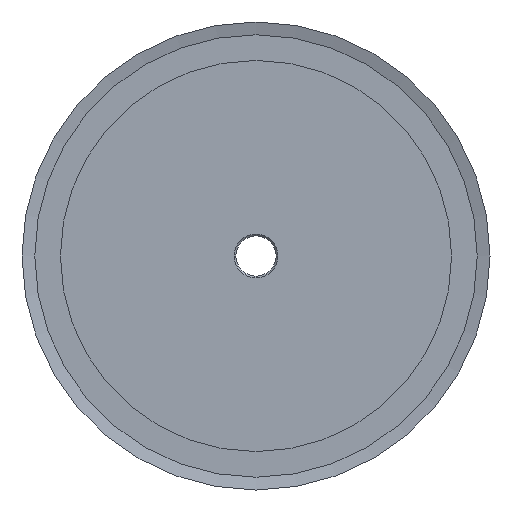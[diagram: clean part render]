
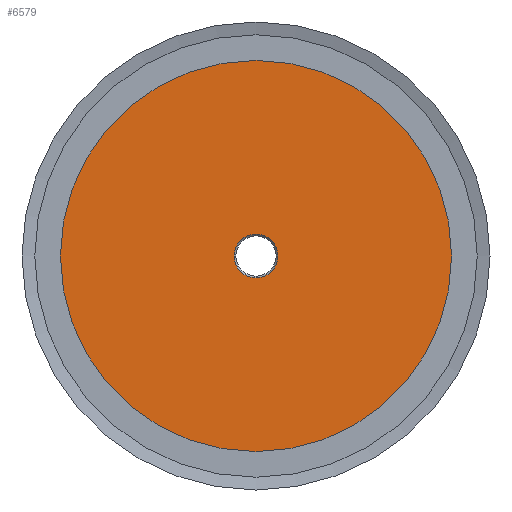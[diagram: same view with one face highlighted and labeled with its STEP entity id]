
A CAD part, left-side view. The second image highlights one B-rep face of the part: STEP entity #6579.
In plain terms, the highlighted planar face has unit normal (-1, 0, 0).
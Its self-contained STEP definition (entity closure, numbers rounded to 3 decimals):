
#38=FACE_BOUND('',#835,.T.);
#165=PLANE('',#7388);
#494=FACE_OUTER_BOUND('',#834,.T.);
#834=EDGE_LOOP('',(#5677));
#835=EDGE_LOOP('',(#5678));
#2401=CIRCLE('',#7387,6.);
#2402=CIRCLE('',#7389,53.5);
#3061=VERTEX_POINT('',#11457);
#3062=VERTEX_POINT('',#11461);
#4042=EDGE_CURVE('',#3061,#3061,#2401,.T.);
#4043=EDGE_CURVE('',#3062,#3062,#2402,.T.);
#5677=ORIENTED_EDGE('',*,*,#4043,.F.);
#5678=ORIENTED_EDGE('',*,*,#4042,.T.);
#6579=ADVANCED_FACE('',(#494,#38),#165,.T.);
#7387=AXIS2_PLACEMENT_3D('',#11459,#9442,#9443);
#7388=AXIS2_PLACEMENT_3D('',#11460,#9444,#9445);
#7389=AXIS2_PLACEMENT_3D('',#11462,#9446,#9447);
#9442=DIRECTION('center_axis',(1.,0.,0.));
#9443=DIRECTION('ref_axis',(0.,0.,-1.));
#9444=DIRECTION('center_axis',(-1.,0.,0.));
#9445=DIRECTION('ref_axis',(0.,0.,1.));
#9446=DIRECTION('center_axis',(1.,0.,0.));
#9447=DIRECTION('ref_axis',(0.,0.,-1.));
#11457=CARTESIAN_POINT('',(0.,-6.,0.));
#11459=CARTESIAN_POINT('Origin',(0.,0.,0.));
#11460=CARTESIAN_POINT('Origin',(0.,53.5,0.));
#11461=CARTESIAN_POINT('',(0.,-53.5,0.));
#11462=CARTESIAN_POINT('Origin',(0.,0.,0.));
